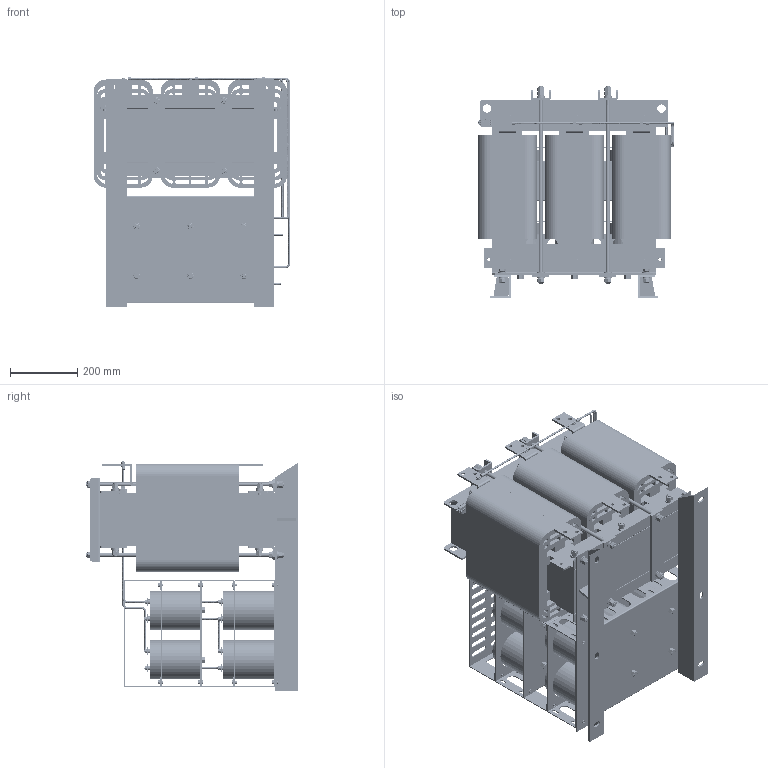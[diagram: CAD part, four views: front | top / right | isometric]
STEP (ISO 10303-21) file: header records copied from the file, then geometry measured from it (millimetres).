
FILE_DESCRIPTION(('STEP AP203'), '1');
FILE_NAME('蔓躅漤铋 耔眢耥 翳朦蝠 _ ISINOF-355_430-6', '', ('UNSPECIFIED'), ('UNSPECIFIED'), 'C3D Converter', 'C3D Toolkit', '');
FILE_SCHEMA(('CONFIG_CONTROL_DESIGN'));
Length unit declared in the file: millimetre
Products named in the file (52): ISINOF-355/430-6; А降еМх90-520-2; А降еМх琵X2\0436\X0\豹X2\0435\X0\118-90-2; ЖЅ豹X2\043504560415\X0\豹X2\0435\X0\12x30x320; ЖЅ豹X2\043504560415\X0\豹X2\0435\X0\20x40x310; ИэПаМъРѕ490-520-156; ЙПјРјю-560ЎБ80ЎБ6; ПЯИ¦430A; ПВјРјю-490ЎБ80ЎБ40; 愧X2\0437\X0\琵X2\0410\X0\ іЕМх; №么X2\04270426041C0445\X0\12x10x310; ДЪДёЕЕ50x6; НвДёЕЕ50x6; UРНС№Мх 60x30x6; 琵X2\04270405041504230422\X0\; 琵X2\04270405041504270443\X0\; С№豹X2\0435\X0\; plain washers--product grade c gb_GB_FASTENER_WASHER_SMWC 12; spring lock washers--normal type gb_GB_FASTENER_WASHER_SW 12; hexagon nuts grade c gb_GB_FASTENER_NUT_SNC1 M12-N; M12x590; m12x220; hexagon head bolts-full thread gb_GB_FASTENER_BOLT_STBAB A M12X35-N; RNB14-6S; 吒X2\0425\X0\116-150; 琵X2\04370418042D0458042C\X0\2; 琵X2\04370418042D0426\X0\吭X2\04560415\X0\; ёЗЧУ; ї琵X2\041E\X0\做зЧУKV223-2P; plain washers--product grade c gb_GB_FASTENER_WASHER_SMWC 6; spring lock washers--normal type gb_GB_FASTENER_WASHER_SW 6; hexagon nuts grade c gb_GB_FASTENER_NUT_SNC1 M6-N; hexagon head bolts-full thread gb_GB_FASTENER_BOLT_STBAB A M6X20-N; Б枯X2\04050423\X0\豹X2\0435\X0\; hexagon head bolts-full thread gb_GB_FASTENER_BOLT_STBAB A M6X12-N; Cable_1-ИэПаХэПТІЁВЛІЁЖч  SKS-SF-0430-6AЈЇ05; 琵X2\043704100412\X0\^Cable_1-ИэПаХэПТІЁВЛІЁЖч  SKS-SF-0430-6AЈЇ05; Cable_2-ИэПаХэПТІЁВЛІЁЖч  SKS-SF-0430-6AЈЇ05; 琵X2\043704100412\X0\^Cable_2-ИэПаХэПТІЁВЛІЁЖч  SKS-SF-0430-6AЈЇ05; Cable_3-ИэПаХэПТІЁВЛІЁЖч  SKS-SF-0430-6AЈЇ05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
Assembly tree (362 placements, depth 3):
  ISINOF-355/430-6
    А降еМх90-520-2  x6
    А降еМх琵X2\0436\X0\豹X2\0435\X0\118-90-2  x8
    ЖЅ豹X2\043504560415\X0\豹X2\0435\X0\12x30x320  x12
    ЖЅ豹X2\043504560415\X0\豹X2\0435\X0\20x40x310  x6
    ИэПаМъРѕ490-520-156
    ЙПјРјю-560ЎБ80ЎБ6  x2
    ПЯИ¦430A  x3
    ПВјРјю-490ЎБ80ЎБ40
    愧X2\0437\X0\琵X2\0410\X0\ іЕМх  x12
    №么X2\04270426041C0445\X0\12x10x310  x25
    ДЪДёЕЕ50x6  x3
    НвДёЕЕ50x6  x3
    UРНС№Мх 60x30x6  x2
    琵X2\04270405041504230422\X0\
    琵X2\04270405041504270443\X0\
    С№豹X2\0435\X0\  x2
    plain washers--product grade c gb_GB_FASTENER_WASHER_SMWC 12  x48
    spring lock washers--normal type gb_GB_FASTENER_WASHER_SW 12  x24
    hexagon nuts grade c gb_GB_FASTENER_NUT_SNC1 M12-N  x40
    M12x590  x4
    m12x220  x6
    hexagon head bolts-full thread gb_GB_FASTENER_BOLT_STBAB A M12X35-N  x4
    RNB14-6S  x11
    吒X2\0425\X0\116-150  x12
    琵X2\04370418042D0458042C\X0\2  x2
    琵X2\04370418042D0426\X0\吭X2\04560415\X0\  x2
    ёЗЧУ
    ї琵X2\041E\X0\做зЧУKV223-2P
    plain washers--product grade c gb_GB_FASTENER_WASHER_SMWC 6  x46
    spring lock washers--normal type gb_GB_FASTENER_WASHER_SW 6  x3
    hexagon nuts grade c gb_GB_FASTENER_NUT_SNC1 M6-N  x3
    hexagon head bolts-full thread gb_GB_FASTENER_BOLT_STBAB A M6X20-N  x3
    Б枯X2\04050423\X0\豹X2\0435\X0\  x8
    hexagon head bolts-full thread gb_GB_FASTENER_BOLT_STBAB A M6X12-N  x24
    Cable_1-ИэПаХэПТІЁВЛІЁЖч  SKS-SF-0430-6AЈЇ05
      琵X2\043704100412\X0\^Cable_1-ИэПаХэПТІЁВЛІЁЖч  SKS-SF-0430-6AЈЇ05
    Cable_2-ИэПаХэПТІЁВЛІЁЖч  SKS-SF-0430-6AЈЇ05
      琵X2\043704100412\X0\^Cable_2-ИэПаХэПТІЁВЛІЁЖч  SKS-SF-0430-6AЈЇ05
    Cable_3-ИэПаХэПТІЁВЛІЁЖч  SKS-SF-0430-6AЈЇ05
      琵X2\043704100412\X0\^Cable_3-ИэПаХэПТІЁВЛІЁЖч  SKS-SF-0430-6AЈЇ05
    Cable_4-ИэПаХэПТІЁВЛІЁЖч  SKS-SF-0430-6AЈЇ05
      琵X2\043704100412\X0\^Cable_4-ИэПаХэПТІЁВЛІЁЖч  SKS-SF-0430-6AЈЇ05
    Cable_5-ИэПаХэПТІЁВЛІЁЖч  SKS-SF-0430-6AЈЇ05
      琵X2\043704100412\X0\^Cable_5-ИэПаХэПТІЁВЛІЁЖч  SKS-SF-0430-6AЈЇ05
    Cable_6-ИэПаХэПТІЁВЛІЁЖч  SKS-SF-0430-6AЈЇ05
      琵X2\043704100412\X0\^Cable_6-ИэПаХэПТІЁВЛІЁЖч  SKS-SF-0430-6AЈЇ05
    hex head bolts-full thread grade c gb_GB_FASTENER_BOLT_HHBFTC M6X12-N  x16
    L1 L2 L3МщЦЅ
    L1ЎЇ L2Ўｮ L3ЎЇМщЦЅ
    琵X2\0428\X0\崤X2\043A\X0\
    ПВјРјю-490ЎБ80ЎБ40 јУЅУ琵X2\042804570427\X0\
Bounding box: 587.16 x 633.2 x 684 mm (x, y, z)
Volume: 82246958.6 mm3; surface area: 12015051.6 mm2
Topology: 395 solids, 395 shells, 5212 faces, 11997 edges, 7821 vertices
Faces by surface type: plane 3134, cylinder 1489, cone 526, bspline 39, torus 24
Full cylindrical faces by diameter (mm): 3 x2, 3.8 x2, 4 x4, 4.917 x3, 6 x107, 6.2 x11, 6.4 x11, 6.6 x46, 6.68 x3, 7 x8, 8 x38, 9.88 x3, 10.106 x40, 11 x14, 12 x88, 12.9 x24, 13.5 x48, 14 x74, 16 x24, 19.1 x24, 24 x48, 25 x4, 27.3 x1, 28.5 x1, 30 x1, 63 x6, 75 x6, 112 x12, 116 x24, 120 x12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
Entity records: 89897 total; most frequent: CARTESIAN_POINT 30932, DIRECTION 8077, ORIENTED_EDGE 7312, EDGE_CURVE 3656, AXIS2_PLACEMENT_3D 2878, VERTEX_POINT 2533, LINE 2321, VECTOR 2321
